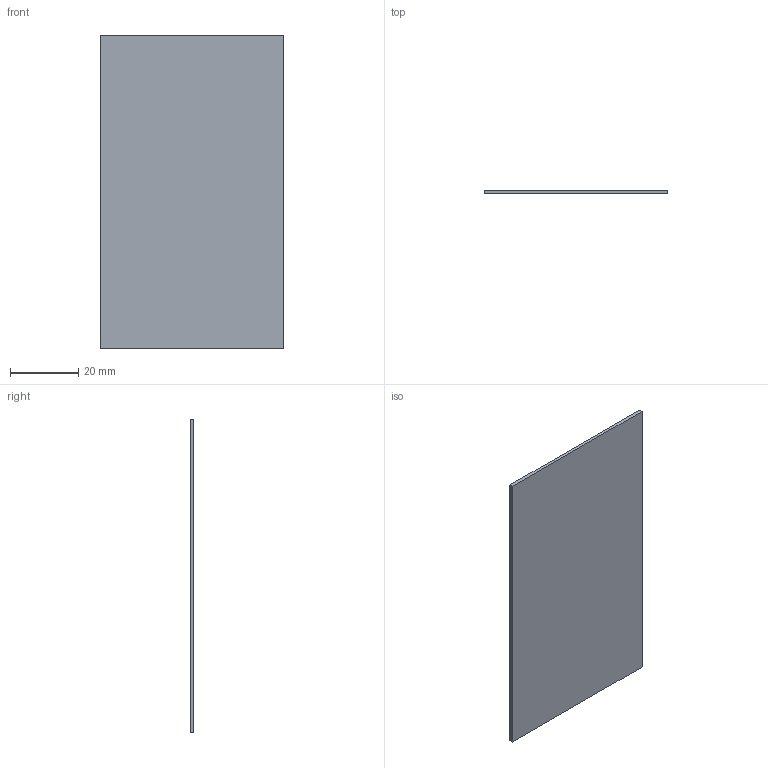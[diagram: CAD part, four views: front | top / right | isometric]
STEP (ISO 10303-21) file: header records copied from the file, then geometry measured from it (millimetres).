
FILE_DESCRIPTION(('Open CASCADE Model'),'2;1');
FILE_NAME('Open CASCADE Shape Model','2026-10-15T19:33:12',('Author'),( 'Open CASCADE'),'Open CASCADE STEP processor 7.9','Open CASCADE 7.9' ,'Unknown');
FILE_SCHEMA(('AUTOMOTIVE_DESIGN { 1 0 10303 214 1 1 1 1 }'));
Length unit declared in the file: millimetre
Products named in the file (1): Open CASCADE STEP translator 7.9 16
Bounding box: 54 x 1 x 92 mm (x, y, z)
Volume: 4968 mm3; surface area: 10228 mm2
Topology: 1 solids, 1 shells, 6 faces, 12 edges, 8 vertices
Faces by surface type: plane 6
Entity records: 322 total; most frequent: CARTESIAN_POINT 51, DIRECTION 50, LINE 36, VECTOR 36, ORIENTED_EDGE 24, PCURVE 24, DEFINITIONAL_REPRESENTATION 24, EDGE_CURVE 12
